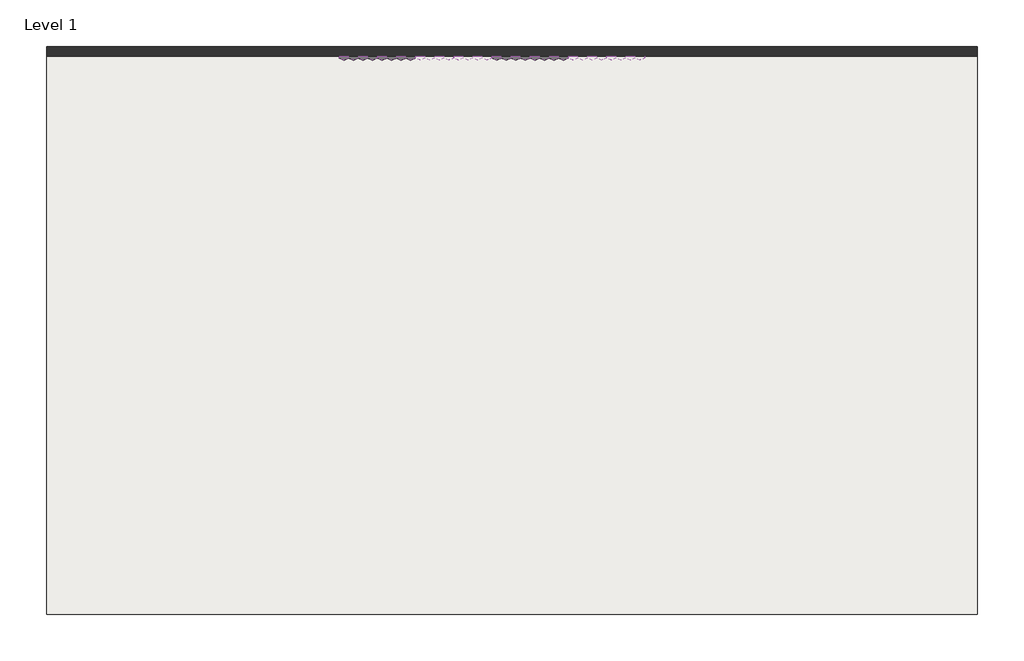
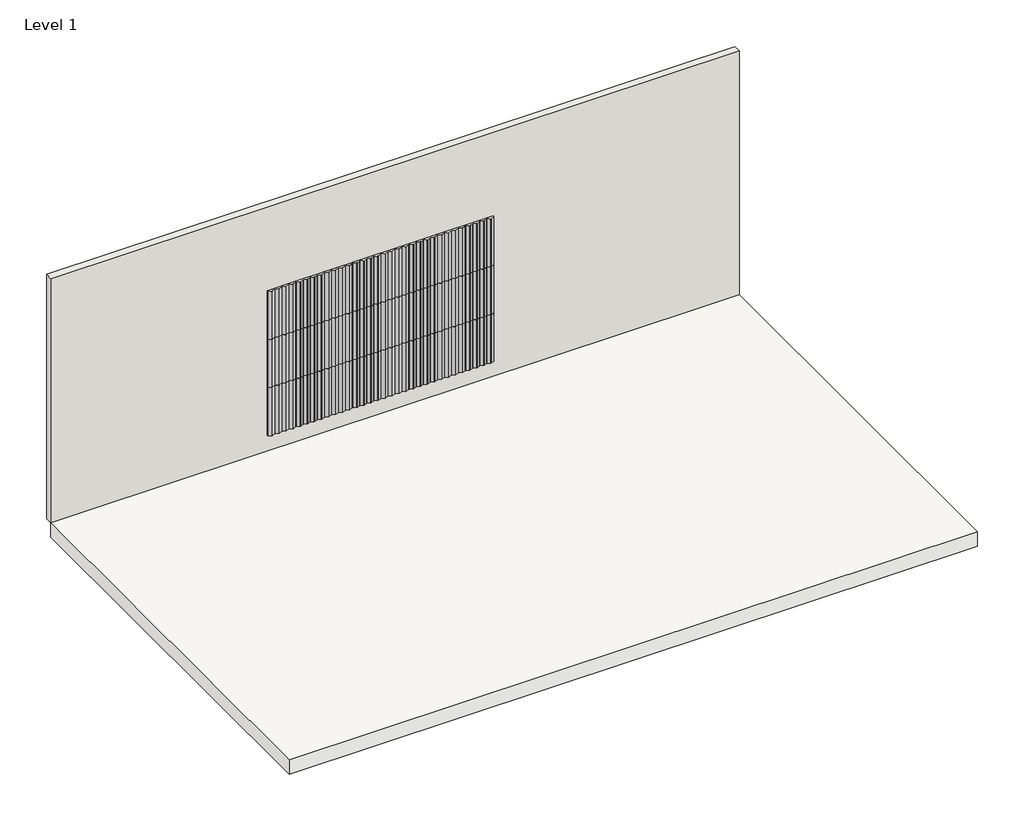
# One storey: 24 proxies, 1 slab, 1 wall.
"""IFC4 building model written with IfcOpenShell, lengths in millimetres."""

from ifc_helpers import new_model, si_unit, frame, origin, origin_with_axes, place, context, project, spatial, polyline, outline, extrude, transform, mapped, element, save
from components import specialty_equipment_65d920d4

model = new_model("IFC4")

# Units and contexts
model_context = context("Model", 3, world=origin())
ifc_project = project(units=[si_unit("LENGTHUNIT", "METRE", prefix="MILLI")], contexts=[model_context])

# Site, building, storey
site = spatial("IfcSite", under=ifc_project)
building = spatial("IfcBuilding", under=site)
storey = spatial("IfcBuildingStorey", under=building, Name="Level 1", Elevation=0.0)

# Proxies
placement = place(None, origin())
specialty_equipment_shape = specialty_equipment_65d920d4(model_context)
element("IfcBuildingElementProxy", 1, Name="Wall-Panel-Kirei-Ascent_Tiles : Ascent Tile", ObjectType="Wall-Panel-Kirei-Ascent_Tiles : Ascent Tile", at=placement, inside=storey, context=model_context, shape_type="MappedRepresentation", body=[
    mapped(specialty_equipment_shape, transform((-6251.8348259, 6040.5236992, 752.3968853), x_axis=(1.0, 0.0, 0.0), y_axis=(0.0, 0.0, 1.0), z_axis=(0.0, -1.0, 0.0))),
])
element("IfcBuildingElementProxy", 2, Name="Wall-Panel-Kirei-Ascent_Tiles : Ascent Tile", ObjectType="Wall-Panel-Kirei-Ascent_Tiles : Ascent Tile", at=placement, inside=storey, context=model_context, shape_type="MappedRepresentation", body=[
    mapped(specialty_equipment_shape, transform((-6251.8348259, 6040.5236992, 1654.0968853), x_axis=(1.0, 0.0, 0.0), y_axis=(0.0, 0.0, 1.0), z_axis=(0.0, -1.0, 0.0))),
])
element("IfcBuildingElementProxy", 3, Name="Wall-Panel-Kirei-Ascent_Tiles : Ascent Tile", ObjectType="Wall-Panel-Kirei-Ascent_Tiles : Ascent Tile", at=placement, inside=storey, context=model_context, shape_type="MappedRepresentation", body=[
    mapped(specialty_equipment_shape, transform((-6251.8348259, 6040.5236992, 2555.7968853), x_axis=(1.0, 0.0, 0.0), y_axis=(0.0, 0.0, 1.0), z_axis=(0.0, -1.0, 0.0))),
])
element("IfcBuildingElementProxy", 4, Name="Wall-Panel-Kirei-Ascent_Tiles : Ascent Tile", ObjectType="Wall-Panel-Kirei-Ascent_Tiles : Ascent Tile", at=placement, inside=storey, context=model_context, shape_type="MappedRepresentation", body=[
    mapped(specialty_equipment_shape, transform((-5751.4746697, 6040.5236992, 752.3968853), x_axis=(1.0, 0.0, 0.0), y_axis=(0.0, 0.0, 1.0), z_axis=(0.0, -1.0, 0.0))),
])
element("IfcBuildingElementProxy", 5, Name="Wall-Panel-Kirei-Ascent_Tiles : Ascent Tile", ObjectType="Wall-Panel-Kirei-Ascent_Tiles : Ascent Tile", at=placement, inside=storey, context=model_context, shape_type="MappedRepresentation", body=[
    mapped(specialty_equipment_shape, transform((-5751.4746697, 6040.5236992, 1654.0968853), x_axis=(1.0, 0.0, 0.0), y_axis=(0.0, 0.0, 1.0), z_axis=(0.0, -1.0, 0.0))),
])
element("IfcBuildingElementProxy", 6, Name="Wall-Panel-Kirei-Ascent_Tiles : Ascent Tile", ObjectType="Wall-Panel-Kirei-Ascent_Tiles : Ascent Tile", at=placement, inside=storey, context=model_context, shape_type="MappedRepresentation", body=[
    mapped(specialty_equipment_shape, transform((-5751.4746697, 6040.5236992, 2555.7968853), x_axis=(1.0, 0.0, 0.0), y_axis=(0.0, 0.0, 1.0), z_axis=(0.0, -1.0, 0.0))),
])
element("IfcBuildingElementProxy", 7, Name="Wall-Panel-Kirei-Ascent_Tiles : Ascent Tile", ObjectType="Wall-Panel-Kirei-Ascent_Tiles : Ascent Tile", at=placement, inside=storey, context=model_context, shape_type="MappedRepresentation", body=[
    mapped(specialty_equipment_shape, transform((-5251.1145134, 6040.5236992, 752.3968853), x_axis=(1.0, 0.0, 0.0), y_axis=(0.0, 0.0, 1.0), z_axis=(0.0, -1.0, 0.0))),
])
element("IfcBuildingElementProxy", 8, Name="Wall-Panel-Kirei-Ascent_Tiles : Ascent Tile", ObjectType="Wall-Panel-Kirei-Ascent_Tiles : Ascent Tile", at=placement, inside=storey, context=model_context, shape_type="MappedRepresentation", body=[
    mapped(specialty_equipment_shape, transform((-5251.1145134, 6040.5236992, 1654.0968853), x_axis=(1.0, 0.0, 0.0), y_axis=(0.0, 0.0, 1.0), z_axis=(0.0, -1.0, 0.0))),
])
element("IfcBuildingElementProxy", 9, Name="Wall-Panel-Kirei-Ascent_Tiles : Ascent Tile", ObjectType="Wall-Panel-Kirei-Ascent_Tiles : Ascent Tile", at=placement, inside=storey, context=model_context, shape_type="MappedRepresentation", body=[
    mapped(specialty_equipment_shape, transform((-5251.1145134, 6040.5236992, 2555.7968853), x_axis=(1.0, 0.0, 0.0), y_axis=(0.0, 0.0, 1.0), z_axis=(0.0, -1.0, 0.0))),
])
element("IfcBuildingElementProxy", 10, Name="Wall-Panel-Kirei-Ascent_Tiles : Ascent Tile", ObjectType="Wall-Panel-Kirei-Ascent_Tiles : Ascent Tile", at=placement, inside=storey, context=model_context, shape_type="MappedRepresentation", body=[
    mapped(specialty_equipment_shape, transform((-4750.7543572, 6040.5236992, 752.3968853), x_axis=(1.0, 0.0, 0.0), y_axis=(0.0, 0.0, 1.0), z_axis=(0.0, -1.0, 0.0))),
])
element("IfcBuildingElementProxy", 11, Name="Wall-Panel-Kirei-Ascent_Tiles : Ascent Tile", ObjectType="Wall-Panel-Kirei-Ascent_Tiles : Ascent Tile", at=placement, inside=storey, context=model_context, shape_type="MappedRepresentation", body=[
    mapped(specialty_equipment_shape, transform((-4750.7543572, 6040.5236992, 1654.0968853), x_axis=(1.0, 0.0, 0.0), y_axis=(0.0, 0.0, 1.0), z_axis=(0.0, -1.0, 0.0))),
])
element("IfcBuildingElementProxy", 12, Name="Wall-Panel-Kirei-Ascent_Tiles : Ascent Tile", ObjectType="Wall-Panel-Kirei-Ascent_Tiles : Ascent Tile", at=placement, inside=storey, context=model_context, shape_type="MappedRepresentation", body=[
    mapped(specialty_equipment_shape, transform((-4750.7543572, 6040.5236992, 2555.7968853), x_axis=(1.0, 0.0, 0.0), y_axis=(0.0, 0.0, 1.0), z_axis=(0.0, -1.0, 0.0))),
])
element("IfcBuildingElementProxy", 13, Name="Wall-Panel-Kirei-Ascent_Tiles : Ascent Tile", ObjectType="Wall-Panel-Kirei-Ascent_Tiles : Ascent Tile", at=placement, inside=storey, context=model_context, shape_type="MappedRepresentation", body=[
    mapped(specialty_equipment_shape, transform((-4250.3942009, 6040.5236992, 752.3968853), x_axis=(1.0, 0.0, 0.0), y_axis=(0.0, 0.0, 1.0), z_axis=(0.0, -1.0, 0.0))),
])
element("IfcBuildingElementProxy", 14, Name="Wall-Panel-Kirei-Ascent_Tiles : Ascent Tile", ObjectType="Wall-Panel-Kirei-Ascent_Tiles : Ascent Tile", at=placement, inside=storey, context=model_context, shape_type="MappedRepresentation", body=[
    mapped(specialty_equipment_shape, transform((-4250.3942009, 6040.5236992, 1654.0968853), x_axis=(1.0, 0.0, 0.0), y_axis=(0.0, 0.0, 1.0), z_axis=(0.0, -1.0, 0.0))),
])
element("IfcBuildingElementProxy", 15, Name="Wall-Panel-Kirei-Ascent_Tiles : Ascent Tile", ObjectType="Wall-Panel-Kirei-Ascent_Tiles : Ascent Tile", at=placement, inside=storey, context=model_context, shape_type="MappedRepresentation", body=[
    mapped(specialty_equipment_shape, transform((-4250.3942009, 6040.5236992, 2555.7968853), x_axis=(1.0, 0.0, 0.0), y_axis=(0.0, 0.0, 1.0), z_axis=(0.0, -1.0, 0.0))),
])
element("IfcBuildingElementProxy", 16, Name="Wall-Panel-Kirei-Ascent_Tiles : Ascent Tile", ObjectType="Wall-Panel-Kirei-Ascent_Tiles : Ascent Tile", at=placement, inside=storey, context=model_context, shape_type="MappedRepresentation", body=[
    mapped(specialty_equipment_shape, transform((-3750.0340447, 6040.5236992, 752.3968853), x_axis=(1.0, 0.0, 0.0), y_axis=(0.0, 0.0, 1.0), z_axis=(0.0, -1.0, 0.0))),
])
element("IfcBuildingElementProxy", 17, Name="Wall-Panel-Kirei-Ascent_Tiles : Ascent Tile", ObjectType="Wall-Panel-Kirei-Ascent_Tiles : Ascent Tile", at=placement, inside=storey, context=model_context, shape_type="MappedRepresentation", body=[
    mapped(specialty_equipment_shape, transform((-3750.0340447, 6040.5236992, 1654.0968853), x_axis=(1.0, 0.0, 0.0), y_axis=(0.0, 0.0, 1.0), z_axis=(0.0, -1.0, 0.0))),
])
element("IfcBuildingElementProxy", 18, Name="Wall-Panel-Kirei-Ascent_Tiles : Ascent Tile", ObjectType="Wall-Panel-Kirei-Ascent_Tiles : Ascent Tile", at=placement, inside=storey, context=model_context, shape_type="MappedRepresentation", body=[
    mapped(specialty_equipment_shape, transform((-3750.0340447, 6040.5236992, 2555.7968853), x_axis=(1.0, 0.0, 0.0), y_axis=(0.0, 0.0, 1.0), z_axis=(0.0, -1.0, 0.0))),
])
element("IfcBuildingElementProxy", 19, Name="Wall-Panel-Kirei-Ascent_Tiles : Ascent Tile", ObjectType="Wall-Panel-Kirei-Ascent_Tiles : Ascent Tile", at=placement, inside=storey, context=model_context, shape_type="MappedRepresentation", body=[
    mapped(specialty_equipment_shape, transform((-3249.6738884, 6040.5236992, 752.3968853), x_axis=(1.0, 0.0, 0.0), y_axis=(0.0, 0.0, 1.0), z_axis=(0.0, -1.0, 0.0))),
])
element("IfcBuildingElementProxy", 20, Name="Wall-Panel-Kirei-Ascent_Tiles : Ascent Tile", ObjectType="Wall-Panel-Kirei-Ascent_Tiles : Ascent Tile", at=placement, inside=storey, context=model_context, shape_type="MappedRepresentation", body=[
    mapped(specialty_equipment_shape, transform((-3249.6738884, 6040.5236992, 1654.0968853), x_axis=(1.0, 0.0, 0.0), y_axis=(0.0, 0.0, 1.0), z_axis=(0.0, -1.0, 0.0))),
])
element("IfcBuildingElementProxy", 21, Name="Wall-Panel-Kirei-Ascent_Tiles : Ascent Tile", ObjectType="Wall-Panel-Kirei-Ascent_Tiles : Ascent Tile", at=placement, inside=storey, context=model_context, shape_type="MappedRepresentation", body=[
    mapped(specialty_equipment_shape, transform((-3249.6738884, 6040.5236992, 2555.7968853), x_axis=(1.0, 0.0, 0.0), y_axis=(0.0, 0.0, 1.0), z_axis=(0.0, -1.0, 0.0))),
])
element("IfcBuildingElementProxy", 22, Name="Wall-Panel-Kirei-Ascent_Tiles : Ascent Tile", ObjectType="Wall-Panel-Kirei-Ascent_Tiles : Ascent Tile", at=placement, inside=storey, context=model_context, shape_type="MappedRepresentation", body=[
    mapped(specialty_equipment_shape, transform((-2749.3137322, 6040.5236992, 752.3968853), x_axis=(1.0, 0.0, 0.0), y_axis=(0.0, 0.0, 1.0), z_axis=(0.0, -1.0, 0.0))),
])
element("IfcBuildingElementProxy", 23, Name="Wall-Panel-Kirei-Ascent_Tiles : Ascent Tile", ObjectType="Wall-Panel-Kirei-Ascent_Tiles : Ascent Tile", at=placement, inside=storey, context=model_context, shape_type="MappedRepresentation", body=[
    mapped(specialty_equipment_shape, transform((-2749.3137322, 6040.5236992, 1654.0968853), x_axis=(1.0, 0.0, 0.0), y_axis=(0.0, 0.0, 1.0), z_axis=(0.0, -1.0, 0.0))),
])
element("IfcBuildingElementProxy", 24, Name="Wall-Panel-Kirei-Ascent_Tiles : Ascent Tile", ObjectType="Wall-Panel-Kirei-Ascent_Tiles : Ascent Tile", at=placement, inside=storey, context=model_context, shape_type="MappedRepresentation", body=[
    mapped(specialty_equipment_shape, transform((-2749.3137322, 6040.5236992, 2555.7968853), x_axis=(1.0, 0.0, 0.0), y_axis=(0.0, 0.0, 1.0), z_axis=(0.0, -1.0, 0.0))),
])

# Slab
element("IfcSlab", 25, ObjectType="Wood Joist 10\" - Wood Finish", at=placement, inside=storey, context=model_context, shape_type="SweptSolid", body=[
    extrude(outline(polyline([(-10693.6472578, -1274.6763008), (-10693.6472578, 6040.5236992), (1498.3527422, 6040.5236992), (1498.3527422, -1274.6763008), (-10693.6472578, -1274.6763008)])), frame((0.0, 0.0, -273.05), z_axis=(0.0, 0.0, 1.0), x_axis=(1.0, 0.0, 0.0)), (0.0, 0.0, 1.0), 273.05),
])

# Wall
element("IfcWall", 26, ObjectType="Interior - 5\" Partition (2-hr)", at=placement, inside=storey, context=model_context, shape_type="SweptSolid", body=[
    extrude(outline(polyline([(1498.3527422, 6040.5236992), (-10693.6472578, 6040.5236992), (-10693.6472578, 6167.5236992), (1498.3527422, 6167.5236992), (1498.3527422, 6040.5236992)])), origin_with_axes(), (0.0, 0.0, 1.0), 4572.0),
])

save(model, "model.ifc")
